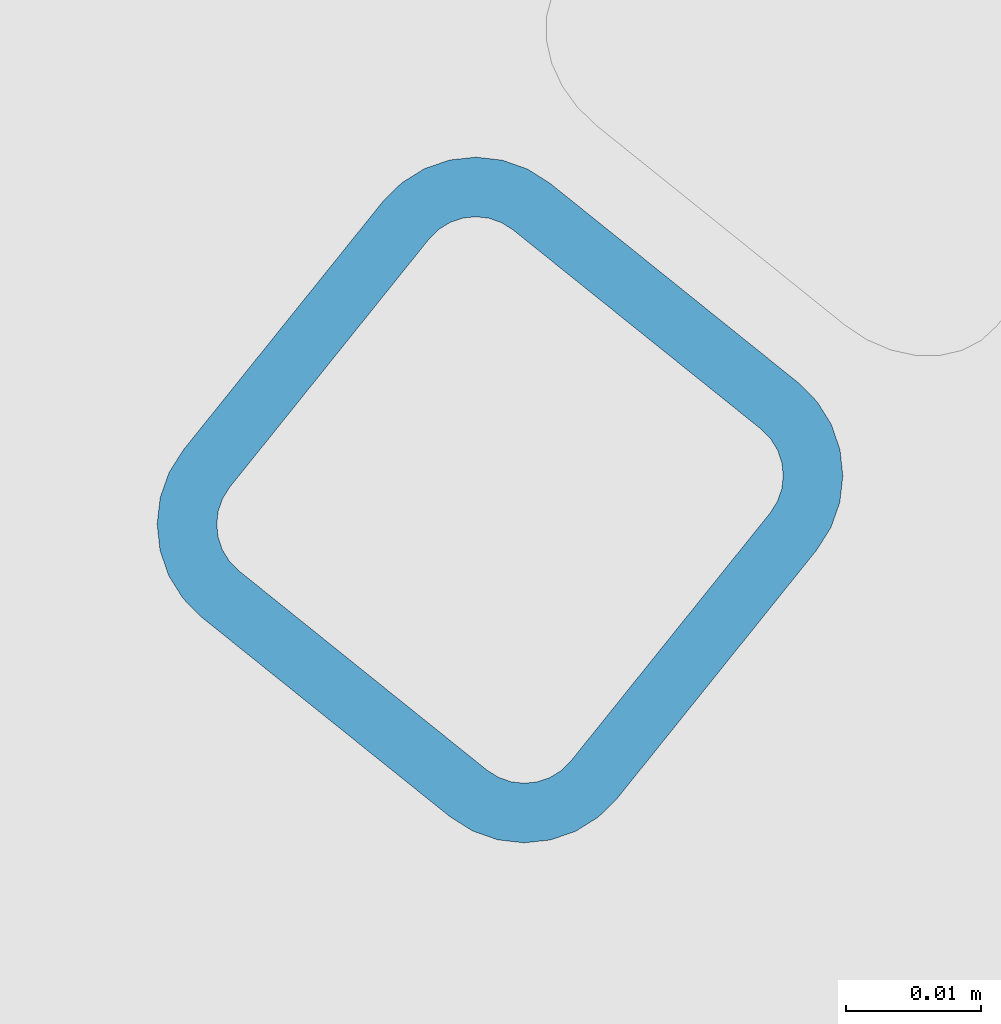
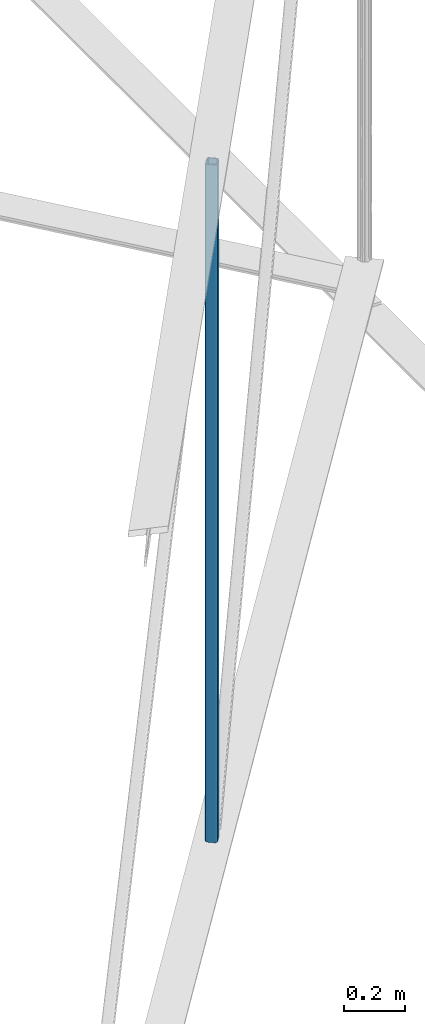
# One storey, part 3 of 15: 1 member, 1 element without a shape of its own.
"""IFC4 building model written with IfcOpenShell, lengths in metres."""

from ifc_helpers import new_model, entity, si_unit, converted_unit, derived_unit, direction, frame, origin, place, context, subcontext, project, spatial, line, arc, indexed_curve, outline, extrude, source, transform, mapped, material, type_object, type_shapes, element, aggregate, save


model = new_model("IFC4")

# Units and contexts
model_context = context("Model", 3, precision=1e-05, world=origin(), true_north=direction((6.123031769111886e-17, 1.0)))
body_context = subcontext(model_context, "Body", "Model", "MODEL_VIEW")
ifc_project = project(units=[si_unit("LENGTHUNIT", "METRE"), si_unit("AREAUNIT", "SQUARE_METRE"), si_unit("VOLUMEUNIT", "CUBIC_METRE"), converted_unit("PLANEANGLEUNIT", "DEGREE", entity("IfcRatioMeasure", 0.017453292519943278), si_unit("PLANEANGLEUNIT", "RADIAN"), dimensions=[0, 0, 0, 0, 0, 0, 0]), si_unit("MASSUNIT", "GRAM", prefix="KILO"), derived_unit("MASSDENSITYUNIT", [(si_unit("MASSUNIT", "GRAM", prefix="KILO"), 1), (si_unit("LENGTHUNIT", "METRE"), -3)]), derived_unit("MOMENTOFINERTIAUNIT", [(si_unit("LENGTHUNIT", "METRE"), 4)]), si_unit("TIMEUNIT", "SECOND"), si_unit("FREQUENCYUNIT", "HERTZ"), si_unit("THERMODYNAMICTEMPERATUREUNIT", "DEGREE_CELSIUS"), derived_unit("THERMALTRANSMITTANCEUNIT", [(si_unit("MASSUNIT", "GRAM", prefix="KILO"), 1), (si_unit("THERMODYNAMICTEMPERATUREUNIT", "KELVIN"), -1), (si_unit("TIMEUNIT", "SECOND"), -3)]), derived_unit("VOLUMETRICFLOWRATEUNIT", [(si_unit("LENGTHUNIT", "METRE"), 3), (si_unit("TIMEUNIT", "SECOND"), -1)]), derived_unit("MASSFLOWRATEUNIT", [(si_unit("MASSUNIT", "GRAM", prefix="KILO"), 1), (si_unit("TIMEUNIT", "SECOND"), -1)]), derived_unit("ROTATIONALFREQUENCYUNIT", [(si_unit("TIMEUNIT", "SECOND"), -1)]), si_unit("ELECTRICCURRENTUNIT", "AMPERE"), si_unit("ELECTRICVOLTAGEUNIT", "VOLT"), si_unit("POWERUNIT", "WATT"), si_unit("FORCEUNIT", "NEWTON", prefix="KILO"), si_unit("ILLUMINANCEUNIT", "LUX"), si_unit("LUMINOUSFLUXUNIT", "LUMEN"), si_unit("LUMINOUSINTENSITYUNIT", "CANDELA"), derived_unit("USERDEFINED", [(si_unit("MASSUNIT", "GRAM", prefix="KILO"), -1), (si_unit("LENGTHUNIT", "METRE"), -2), (si_unit("TIMEUNIT", "SECOND"), 3), (si_unit("LUMINOUSFLUXUNIT", "LUMEN"), 1)]), derived_unit("SOUNDPOWERUNIT", [(si_unit("MASSUNIT", "GRAM", prefix="KILO"), 1), (si_unit("LENGTHUNIT", "METRE"), 2), (si_unit("TIMEUNIT", "SECOND"), -3)]), derived_unit("SOUNDPRESSUREUNIT", [(si_unit("MASSUNIT", "GRAM", prefix="KILO"), 1), (si_unit("LENGTHUNIT", "METRE"), -1), (si_unit("TIMEUNIT", "SECOND"), -2)]), derived_unit("LINEARVELOCITYUNIT", [(si_unit("LENGTHUNIT", "METRE"), 1), (si_unit("TIMEUNIT", "SECOND"), -1)]), si_unit("PRESSUREUNIT", "PASCAL"), derived_unit("USERDEFINED", [(si_unit("LENGTHUNIT", "METRE"), -2), (si_unit("MASSUNIT", "GRAM", prefix="KILO"), 1), (si_unit("TIMEUNIT", "SECOND"), -2)]), derived_unit("LINEARFORCEUNIT", [(si_unit("MASSUNIT", "GRAM", prefix="KILO"), 1), (si_unit("LENGTHUNIT", "METRE"), 1), (si_unit("TIMEUNIT", "SECOND"), -2), (si_unit("LENGTHUNIT", "METRE"), -1)]), derived_unit("PLANARFORCEUNIT", [(si_unit("MASSUNIT", "GRAM", prefix="KILO"), 1), (si_unit("LENGTHUNIT", "METRE"), 1), (si_unit("TIMEUNIT", "SECOND"), -2), (si_unit("LENGTHUNIT", "METRE"), -2)])], contexts=[model_context])

# Site, building, storey
site_placement = place(None, origin())
site = spatial("IfcSite", under=ifc_project, at=site_placement, Name="Superficie", CompositionType="ELEMENT")
building_placement = place(site_placement, origin())
building = spatial("IfcBuilding", under=site, at=building_placement, CompositionType="ELEMENT")
storey_placement = place(building_placement, frame((0.0, 0.0, 7.25)))
storey = spatial("IfcBuildingStorey", under=building, at=storey_placement, Name="Nivel 2", CompositionType="ELEMENT", Elevation=7.25)

# Assembly, member
assembly_placement = place(storey_placement, origin())
assembly = element("IfcElementAssembly", 1, at=assembly_placement, inside=storey, Name="Cercha esquina:Cercha esquina", ObjectType="Cercha esquina:Cercha esquina", AssemblyPlace="NOTDEFINED", PredefinedType="TRUSS")
ifc_material = material(Name="Metal - Acero - 345 MPa", Category="Metal")
member_type = type_object("IfcMemberType", Name="HSS-Sección estructural hueca:HSS41.3X41.3X4.8", PredefinedType="BRACE", material=ifc_material)
shared_shape = source(origin(), body_context, "Body", "SweptSolid", [
    extrude(outline(indexed_curve([(-0.011809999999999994, -0.020650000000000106), (0.011809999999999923, -0.020650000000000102), (0.01806082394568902, -0.01806082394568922), (0.020649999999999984, -0.011810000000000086), (0.020649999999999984, 0.011810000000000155), (0.018060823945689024, 0.01806082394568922), (0.011809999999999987, 0.0206500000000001), (-0.011809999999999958, 0.0206500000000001), (-0.01806082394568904, 0.018060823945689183), (-0.020649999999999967, 0.011810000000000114), (-0.020649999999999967, -0.011810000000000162), (-0.018060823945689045, -0.018060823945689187)], segments=[line(1, 2), arc(2, 3, 4), line(4, 5), arc(5, 6, 7), line(7, 8), arc(8, 9, 10), line(10, 11), arc(11, 12, 1)], self_intersect=False), holes=[indexed_curve([(-0.01623000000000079, 0.01180999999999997), (-0.014935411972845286, 0.014935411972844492), (-0.011810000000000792, 0.016229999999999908), (0.011809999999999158, 0.016229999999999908), (0.014935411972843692, 0.014935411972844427), (0.01622999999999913, 0.011809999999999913), (0.01622999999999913, -0.01180999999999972), (0.014935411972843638, -0.014935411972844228), (0.01180999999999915, -0.016229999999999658), (-0.011810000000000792, -0.016229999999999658), (-0.014935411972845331, -0.014935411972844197), (-0.01623000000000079, -0.011809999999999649)], segments=[arc(1, 2, 3), line(3, 4), arc(4, 5, 6), line(6, 7), arc(7, 8, 9), line(9, 10), arc(10, 11, 12), line(12, 1)], self_intersect=False)]), frame((-1.3554999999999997, 0.0, 0.0), z_axis=(1.0, 0.0, 0.0), x_axis=(0.0, 0.0, -1.0)), (0.0, 0.0, 1.0), 2.699),
])
type_shapes(member_type, [shared_shape])
member_placement = place(assembly_placement, frame((-18.53664672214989, -4.5039359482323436, 1.636759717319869), z_axis=(0.6262435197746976, 0.7796275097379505, 0.0), x_axis=(0.0, 0.0, 1.0)))
member = element("IfcMember", 2, at=member_placement, type_object=member_type, material=ifc_material, Name="HSS-Sección estructural hueca:HSS41.3X41.3X4.8", ObjectType="HSS-Sección estructural hueca:HSS41.3X41.3X4.8", PredefinedType="BRACE", context=body_context, shape_type="MappedRepresentation", body=[
    mapped(shared_shape, transform((0.0, 0.0, 0.0), scale=1.0)),
])
aggregate(assembly, [member])

save(model, "model.ifc")
